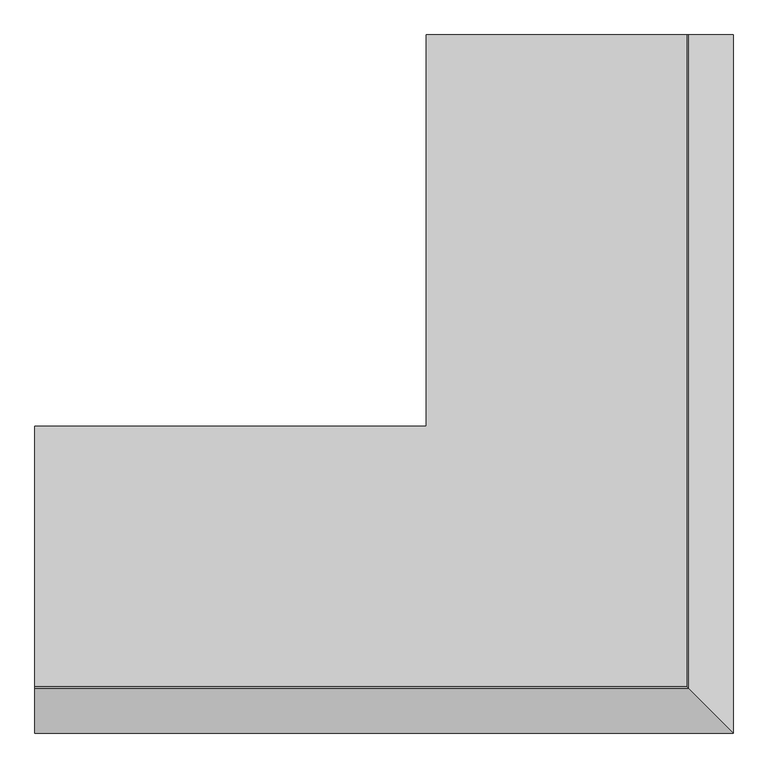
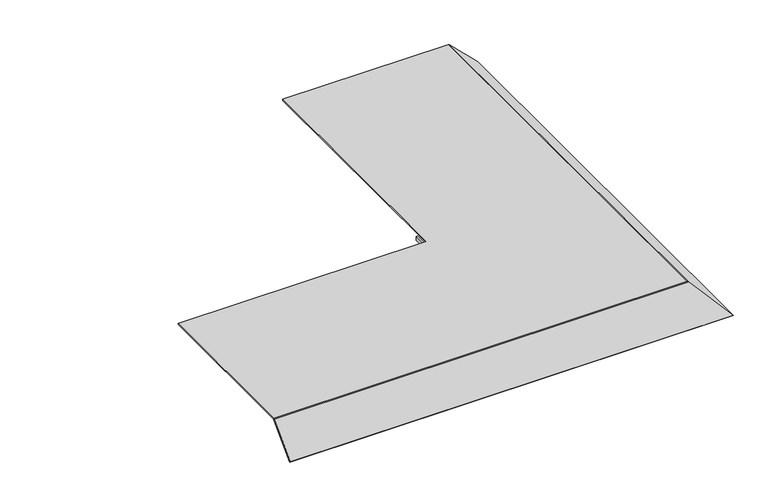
"""IFC4 building model written with IfcOpenShell, lengths in millimetres: cable carrier fitting geometry, Electrical_Installation_Hager_Inner-And-Outer-Corner : Electrical_Installation_Hager_Inner-And-Outer-Corner."""

from ifc_helpers import new_model, si_unit, frame, origin, place, context, project, spatial, polyline, circle_curve, ellipse_curve, outline, extrude, source, transform, mapped, element, save
from ifc_brep_helpers import plane_surface, cylinder_surface, revolved_surface, advanced_brep


def cable_carrier_fitting_3b842009(model_context):
    return source(origin(), model_context, "Body", "SolidModel", [
        extrude(outline(polyline([(-196.5, 246.5), (-193.5, 246.5), (-193.5, 193.5), (-246.5, 193.5), (-246.5, 196.5), (-196.5, 196.5), (-196.5, 246.5)])), frame((0.0, 0.0, 13.5), z_axis=(0.0, 0.0, 1.0), x_axis=(1.0, 0.0, 0.0)), (0.0, 0.0, 1.0), 10.0),
        advanced_brep(
        [(-800.0, 200.0, 40.5), (-800.0, 200.0, 37.5), (-800.0, -199.8229541, 37.5), (-800.0, -200.8322972, 37.0819164), (-800.0, -268.7142136, -30.8), (-800.0, -270.8355339, -28.6786797), (-800.0, -202.8206472, 39.336207), (-800.0, -200.0110025, 40.5), (-200.0, 800.0, 40.5), (200.0110025, 800.0, 40.5), (202.8206472, 800.0, 39.336207), (270.8355339, 800.0, -28.6786797), (268.7142136, 800.0, -30.8), (200.8322972, 800.0, 37.0819164), (199.8229541, 800.0, 37.5), (-200.0, 800.0, 37.5), (-200.0, 200.0, 40.5), (-200.0, 200.0, 37.5), (199.8229541, -199.8229541, 37.5), (200.8322972, -200.8322972, 37.0819164), (268.7142136, -268.7142136, -30.8), (270.8355339, -270.8355339, -28.6786797), (202.8206472, -202.8206472, 39.336207), (200.0110025, -200.0110025, 40.5)],
        [
            (0, 1),
            (1, 2),
            (2, 3, circle_curve(frame((-800.0, -199.8229541, 36.0725733), z_axis=(1.0, 0.0, 0.0), x_axis=(0.0, 1.0, 0.0)), 1.4274267)),
            (3, 4),
            (4, 5),
            (5, 6),
            (6, 7, circle_curve(frame((-800.0, -200.0110025, 36.5265623), z_axis=(-1.0, 0.0, 0.0), x_axis=(0.0, 1.0, 0.0)), 3.9734377)),
            (7, 0),
            (8, 9),
            (9, 10, circle_curve(frame((200.0110025, 800.0, 36.5265623), z_axis=(0.0, 1.0, 0.0), x_axis=(-1.0, 0.0, 0.0)), 3.9734377)),
            (10, 11),
            (11, 12),
            (12, 13),
            (13, 14, circle_curve(frame((199.8229541, 800.0, 36.0725733), z_axis=(0.0, -1.0, 0.0), x_axis=(-1.0, 0.0, 0.0)), 1.4274267)),
            (14, 15),
            (15, 8),
            (0, 16),
            (16, 17),
            (17, 1),
            (17, 15),
            (14, 18),
            (18, 2),
            (18, 19, ellipse_curve(frame((199.8229541, -199.8229541, 36.0725733), z_axis=(0.7071067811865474, 0.7071067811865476, 0.0), x_axis=(0.7071067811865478, -0.7071067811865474, 0.0)), 2.0186862, 1.4274267)),
            (19, 3),
            (19, 20),
            (20, 4),
            (20, 21),
            (21, 5),
            (21, 22),
            (22, 6),
            (22, 23, ellipse_curve(frame((200.0110025, -200.0110025, 36.5265623), z_axis=(-0.7071067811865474, -0.7071067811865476, 0.0), x_axis=(-0.7071067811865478, 0.7071067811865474, 0.0)), 5.6192895, 3.9734377)),
            (23, 7),
            (23, 9),
            (8, 16),
            (13, 19),
            (12, 20),
            (11, 21),
            (10, 22),
        ],
        [
            plane_surface(frame((-800.0, 0.0, 0.0), z_axis=(-1.0, 0.0, 0.0), x_axis=(0.0, 0.0, 1.0))),
            plane_surface(frame((0.0, 800.0, 0.0), z_axis=(0.0, 1.0, 0.0), x_axis=(0.0, 0.0, 1.0))),
            plane_surface(frame((-800.0, 200.0, 40.5), z_axis=(0.0, 1.0, 0.0), x_axis=(1.0, 0.0, 0.0))),
            plane_surface(frame((-800.0, 200.0, 37.5), z_axis=(0.0, 0.0, -1.0), x_axis=(1.0, 0.0, 0.0))),
            revolved_surface(polyline([(201.25038080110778, -198.3955274, 36.0725733), (-800.0, -198.3955274, 36.0725733)]), (-800.0, -199.8229541, 36.0725733), (1.0, 0.0, 0.0)),
            plane_surface(frame((-800.0, -200.8322972, 37.0819164), z_axis=(0.0, 0.7071067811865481, -0.707106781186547), x_axis=(1.0, 0.0, 0.0))),
            plane_surface(frame((-800.0, -268.7142136, -30.8), z_axis=(0.0, -0.7071067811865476, -0.7071067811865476), x_axis=(1.0, 0.0, 0.0))),
            plane_surface(frame((-800.0, -270.8355339, -28.6786797), z_axis=(0.0, -0.7071067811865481, 0.707106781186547), x_axis=(1.0, 0.0, 0.0))),
            cylinder_surface(frame((-800.0, -200.0110025, 36.5265623), z_axis=(-1.0, 0.0, 0.0), x_axis=(0.0, 1.0, 0.0)), 3.9734377),
            plane_surface(frame((-800.0, -200.0110025, 40.5), z_axis=(0.0, 0.0, 1.0), x_axis=(1.0, 0.0, 0.0))),
            plane_surface(frame((-200.0, 200.0, 40.5), z_axis=(-1.0, 0.0, 0.0), x_axis=(0.0, 1.0, 0.0))),
            revolved_surface(polyline([(198.3955274, 800.0, 36.0725733), (198.3955274, -201.2503808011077, 36.0725733)]), (199.8229541, 0.0, 36.0725733), (0.0, 1.0, 0.0)),
            plane_surface(frame((200.8322972, -200.8322972, 37.0819164), z_axis=(-0.7071067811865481, 0.0, -0.707106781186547), x_axis=(0.0, 1.0, 0.0))),
            plane_surface(frame((268.7142136, -268.7142136, -30.8), z_axis=(0.7071067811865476, 0.0, -0.7071067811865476), x_axis=(0.0, 1.0, 0.0))),
            plane_surface(frame((270.8355339, -270.8355339, -28.6786797), z_axis=(0.7071067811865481, 0.0, 0.707106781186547), x_axis=(0.0, 1.0, 0.0))),
            cylinder_surface(frame((200.0110025, 0.0, 36.5265623), z_axis=(0.0, -1.0, 0.0), x_axis=(-1.0, 0.0, 0.0)), 3.9734377),
        ],
        [
            (0, [[1, 2, 3, 4, 5, 6, 7, 8]]),
            (1, [[9, 10, 11, 12, 13, 14, 15, 16]]),
            (2, [[-1, 17, 18, 19]]),
            (3, [[-2, -19, 20, -15, 21, 22]]),
            (4, [[-3, -22, 23, 24]]),
            (5, [[-4, -24, 25, 26]]),
            (6, [[-5, -26, 27, 28]]),
            (7, [[-6, -28, 29, 30]]),
            (8, [[-7, -30, 31, 32]]),
            (9, [[-8, -32, 33, -9, 34, -17]]),
            (10, [[-18, -34, -16, -20]]),
            (11, [[-23, -21, -14, 35]]),
            (12, [[-25, -35, -13, 36]]),
            (13, [[-27, -36, -12, 37]]),
            (14, [[-29, -37, -11, 38]]),
            (15, [[-31, -38, -10, -33]]),
        ],
    ),
    ])


if __name__ == "__main__":
    model = new_model("IFC4")
    model_context = context("Model", 3, world=origin())
    ifc_project = project(units=[si_unit("LENGTHUNIT", "METRE", prefix="MILLI")], contexts=[model_context])
    site = spatial("IfcSite", under=ifc_project)
    building = spatial("IfcBuilding", under=site)
    placement = place(None, origin())
    cable_carrier_fitting_shape = cable_carrier_fitting_3b842009(model_context)
    element("IfcCableCarrierFitting", 1, ObjectType="Electrical_Installation_Hager_Inner-And-Outer-Corner : Electrical_Installation_Hager_Inner-And-Outer-Corner", at=placement, inside=building, context=model_context, shape_type="MappedRepresentation", body=[
        mapped(cable_carrier_fitting_shape, transform((0.0, 0.0, 0.0), x_axis=(1.0, 0.0, 0.0), y_axis=(0.0, 1.0, 0.0), z_axis=(0.0, 0.0, 1.0))),
    ])
    save(model, "model.ifc")
